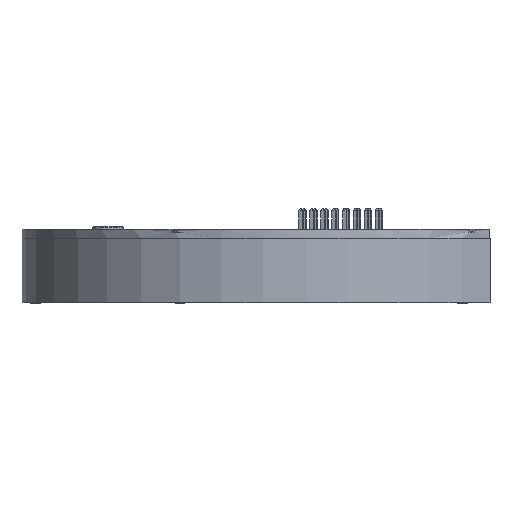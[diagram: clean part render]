
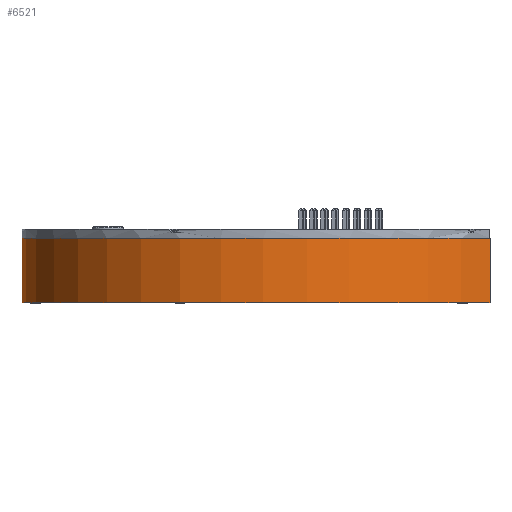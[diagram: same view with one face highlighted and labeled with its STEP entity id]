
A CAD part, left-side view. The second image highlights one B-rep face of the part: STEP entity #6521.
In plain terms, the highlighted cylindrical face has radius 29.21 mm (diameter 58.42 mm), a partial arc.
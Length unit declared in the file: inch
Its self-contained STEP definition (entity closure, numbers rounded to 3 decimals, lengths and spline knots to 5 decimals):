
#4542 = CYLINDRICAL_SURFACE ( 'NONE', #25300, 1.15 ) ;
#4720 = DIRECTION ( 'NONE',  ( 0., 0., -1. ) ) ;
#4786 = CARTESIAN_POINT ( 'NONE',  ( -0.10305, 0.0614, -0.24069 ) ) ;
#5468 = CIRCLE ( 'NONE', #35858, 1.15 ) ;
#6521 = ADVANCED_FACE ( 'NONE', ( #24587 ), #4542, .T. ) ;
#7638 = CARTESIAN_POINT ( 'NONE',  ( -0.10305, 1.2114, 0.04431 ) ) ;
#8963 = DIRECTION ( 'NONE',  ( 0., 0., 1. ) ) ;
#9026 = DIRECTION ( 'NONE',  ( 0., -1., 0. ) ) ;
#9143 = EDGE_LOOP ( 'NONE', ( #31745, #51540, #9337, #16766 ) ) ;
#9337 = ORIENTED_EDGE ( 'NONE', *, *, #33878, .T. ) ;
#12090 = CARTESIAN_POINT ( 'NONE',  ( -0.79305, -0.8586, -0.24069 ) ) ;
#16339 = LINE ( 'NONE', #40948, #42069 ) ;
#16766 = ORIENTED_EDGE ( 'NONE', *, *, #40781, .F. ) ;
#16919 = CARTESIAN_POINT ( 'NONE',  ( -0.10305, 1.2114, 0.04431 ) ) ;
#22229 = AXIS2_PLACEMENT_3D ( 'NONE', #4786, #33070, #9026 ) ;
#24046 = VERTEX_POINT ( 'NONE', #35555 ) ;
#24587 = FACE_OUTER_BOUND ( 'NONE', #9143, .T. ) ;
#24824 = CARTESIAN_POINT ( 'NONE',  ( -0.79305, -0.8586, 0.04431 ) ) ;
#25300 = AXIS2_PLACEMENT_3D ( 'NONE', #28569, #44991, #41287 ) ;
#28569 = CARTESIAN_POINT ( 'NONE',  ( -0.10305, 0.0614, 0.04431 ) ) ;
#30063 = DIRECTION ( 'NONE',  ( 0., -1., 0. ) ) ;
#31745 = ORIENTED_EDGE ( 'NONE', *, *, #34615, .F. ) ;
#33070 = DIRECTION ( 'NONE',  ( 0., 0., 1. ) ) ;
#33329 = DIRECTION ( 'NONE',  ( 0., 0., -1. ) ) ;
#33617 = VECTOR ( 'NONE', #33329, 39.37008 ) ;
#33878 = EDGE_CURVE ( 'NONE', #24046, #46003, #35786, .T. ) ;
#34615 = EDGE_CURVE ( 'NONE', #38587, #38134, #5468, .T. ) ;
#35555 = CARTESIAN_POINT ( 'NONE',  ( -0.10305, 1.2114, -0.24069 ) ) ;
#35786 = CIRCLE ( 'NONE', #22229, 1.15 ) ;
#35858 = AXIS2_PLACEMENT_3D ( 'NONE', #45188, #8963, #30063 ) ;
#36778 = LINE ( 'NONE', #16919, #33617 ) ;
#38134 = VERTEX_POINT ( 'NONE', #24824 ) ;
#38587 = VERTEX_POINT ( 'NONE', #7638 ) ;
#40344 = EDGE_CURVE ( 'NONE', #38587, #24046, #36778, .T. ) ;
#40781 = EDGE_CURVE ( 'NONE', #38134, #46003, #16339, .T. ) ;
#40948 = CARTESIAN_POINT ( 'NONE',  ( -0.79305, -0.8586, 0.04431 ) ) ;
#41287 = DIRECTION ( 'NONE',  ( 0., 1., 0. ) ) ;
#42069 = VECTOR ( 'NONE', #4720, 39.37008 ) ;
#44991 = DIRECTION ( 'NONE',  ( 0., 0., -1. ) ) ;
#45188 = CARTESIAN_POINT ( 'NONE',  ( -0.10305, 0.0614, 0.04431 ) ) ;
#46003 = VERTEX_POINT ( 'NONE', #12090 ) ;
#51540 = ORIENTED_EDGE ( 'NONE', *, *, #40344, .T. ) ;
